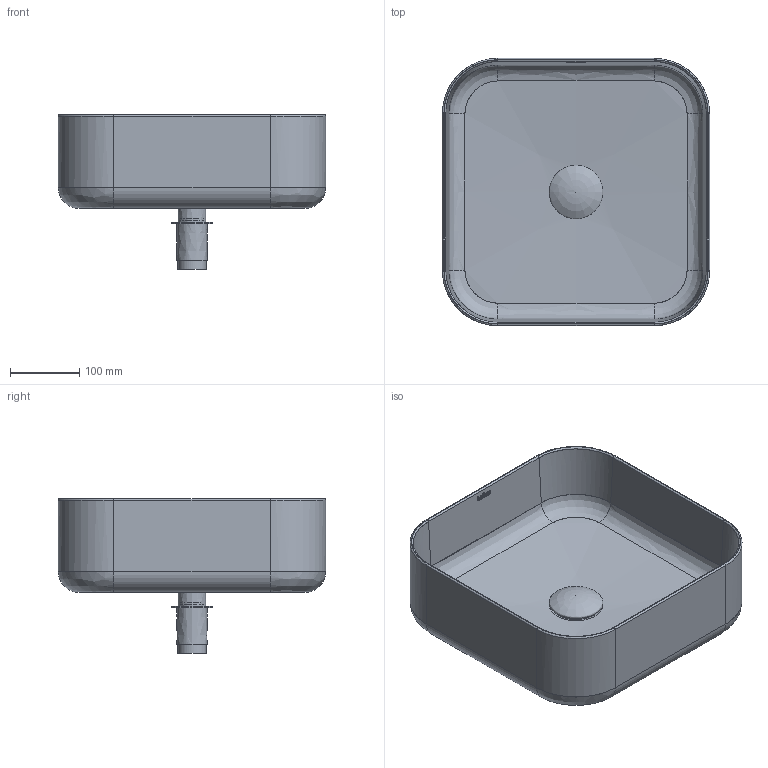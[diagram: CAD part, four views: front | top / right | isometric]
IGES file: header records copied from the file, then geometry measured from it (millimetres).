
Global section: file name: C:\Users\hp\Desktop\Bathco_New Stone Classic Washbasins Square_29092025_EXP.igs; native system: Rhinoceros ( Sep  8 2025 ); preprocessor: Trout Lake IGES 012 Sep  8 2025; date: 250929.084543; units: millimetre
Bounding box: 385 x 385 x 222.75 mm (x, y, z)
Surface area: 664632 mm2 (no closed solid volume)
Topology: 0 solids, 0 shells, 250 faces, 1644 edges, 1583 vertices
Faces by surface type: bspline 250
